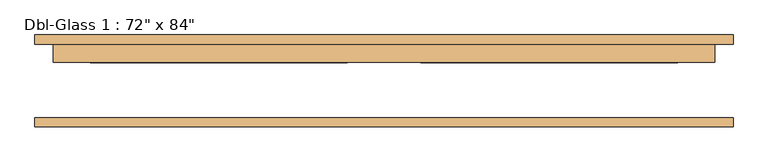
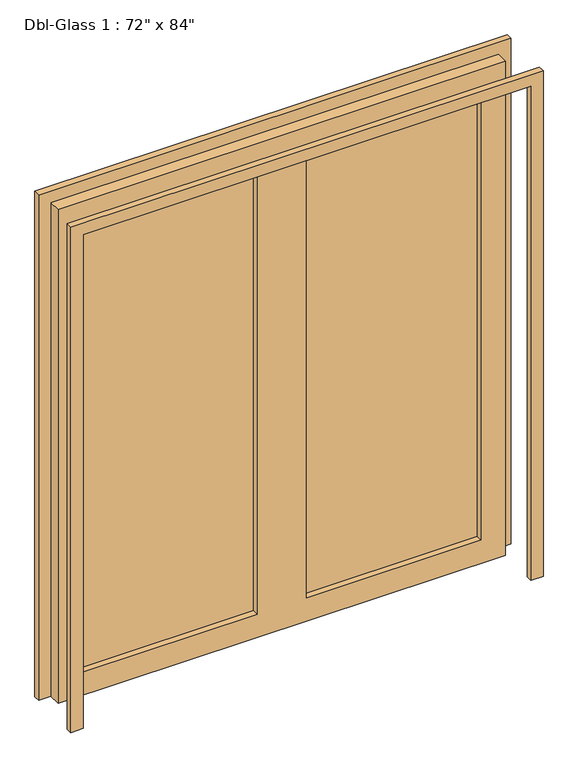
"""IFC4 building model written with IfcOpenShell, lengths in millimetres: door geometry."""

from ifc_helpers import new_model, si_unit, frame, origin, place, context, project, spatial, polyline, outline, extrude, source, transform, mapped, element, save


def door_e4a24bc2(model_context):
    return source(origin(), model_context, "Body", "SweptSolid", [
        extrude(outline(polyline([(0.0, 965.2), (2184.4, 965.2), (2184.4, -965.2), (0.0, -965.2), (0.0, -914.4), (2133.6, -914.4), (2133.6, 914.4), (0.0, 914.4), (0.0, 965.2)])), frame((0.0, -124.6258929, 0.0), z_axis=(0.0, 1.0, 0.0), x_axis=(0.0, 0.0, 1.0)), (0.0, 0.0, 1.0), 25.4),
        extrude(outline(polyline([(2133.6, 914.4), (0.0, 914.4), (0.0, 965.2), (2184.4, 965.2), (2184.4, -965.2), (0.0, -965.2), (0.0, -914.4), (2133.6, -914.4), (2133.6, 914.4)])), frame((0.0, 103.9741071, 0.0), z_axis=(0.0, 1.0, 0.0), x_axis=(0.0, 0.0, 1.0)), (0.0, 0.0, 1.0), 25.4),
        extrude(outline(polyline([(812.8, 78.5741071), (101.6, 78.5741071), (101.6, 85.7178571), (812.8, 85.7178571), (812.8, 78.5741071)])), frame((0.0, 0.0, 101.6), z_axis=(0.0, 0.0, 1.0), x_axis=(1.0, 0.0, 0.0)), (0.0, 0.0, 1.0), 1930.4),
        extrude(outline(polyline([(-101.6, 78.5741071), (-812.8, 78.5741071), (-812.8, 85.7178571), (-101.6, 85.7178571), (-101.6, 78.5741071)])), frame((0.0, 0.0, 101.6), z_axis=(0.0, 0.0, 1.0), x_axis=(1.0, 0.0, 0.0)), (0.0, 0.0, 1.0), 1930.4),
        extrude(outline(polyline([(2133.6, 914.4), (2133.6, -914.4), (0.0, -914.4), (0.0, 914.4), (2133.6, 914.4)]), holes=[polyline([(2032.0, -101.6), (101.6, -101.6), (101.6, -812.8), (2032.0, -812.8), (2032.0, -101.6)]), polyline([(2032.0, 812.8), (101.6, 812.8), (101.6, 101.6), (2032.0, 101.6), (2032.0, 812.8)])]), frame((0.0, 53.1741071, 0.0), z_axis=(0.0, 1.0, 0.0), x_axis=(0.0, 0.0, 1.0)), (0.0, 0.0, 1.0), 50.8),
    ])


if __name__ == "__main__":
    model = new_model("IFC4")
    model_context = context("Model", 3, world=origin())
    ifc_project = project(units=[si_unit("LENGTHUNIT", "METRE", prefix="MILLI")], contexts=[model_context])
    site = spatial("IfcSite", under=ifc_project)
    building = spatial("IfcBuilding", under=site)
    placement = place(None, origin())
    door_shape = door_e4a24bc2(model_context)
    element("IfcDoor", 1, ObjectType="Dbl-Glass 1 : 72\" x 84\"", at=placement, inside=building, context=model_context, shape_type="MappedRepresentation", body=[
        mapped(door_shape, transform((0.0, 0.0, 0.0), x_axis=(1.0, 0.0, 0.0), y_axis=(0.0, 1.0, 0.0), z_axis=(0.0, 0.0, 1.0))),
    ])
    save(model, "model.ifc")
